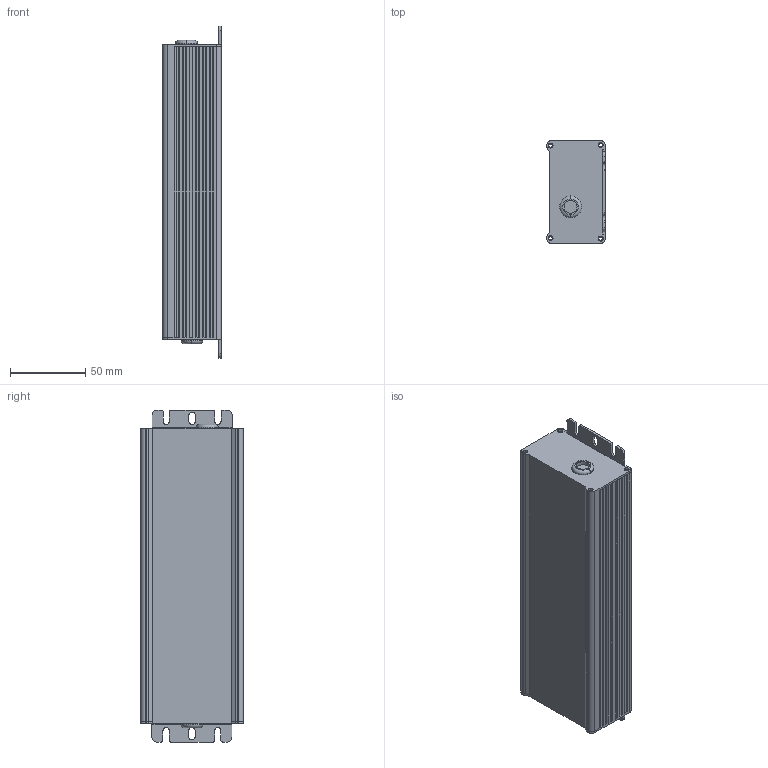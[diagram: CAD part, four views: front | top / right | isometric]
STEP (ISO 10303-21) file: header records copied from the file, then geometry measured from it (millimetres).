
FILE_DESCRIPTION(('Creo Elements/Direct Modeling STEP Export'),'2;1');
FILE_NAME('HEP-100-B.stp','2016-07-04T14:07:04',(''),(''),'PTC Creo Elements/Direct Modeling STEP processor for AP214 (Solid Model)','PTC Creo Elements/Direct Modeling 19.0 09-May-2014 (C) Parametric Technology GmbH','');
FILE_SCHEMA(('AUTOMOTIVE_DESIGN { 1 0 10303 214 1 1 1 1 }'));
Length unit declared in the file: millimetre
Products named in the file (2): CASE; HEP-100-A
Assembly tree (1 placements, depth 2):
  HEP-100-A
    CASE
Bounding box: 38.74 x 68.05 x 220 mm (x, y, z)
Volume: 92768.9 mm3; surface area: 100416.7 mm2
Topology: 1 solids, 1 shells, 247 faces, 693 edges, 446 vertices
Faces by surface type: plane 160, cylinder 79, torus 8
Entity records: 7393 total; most frequent: ORIENTED_EDGE 1386, CARTESIAN_POINT 1258, DIRECTION 1162, EDGE_CURVE 693, VECTOR 462, LINE 462, VERTEX_POINT 446, AXIS2_PLACEMENT_3D 350
